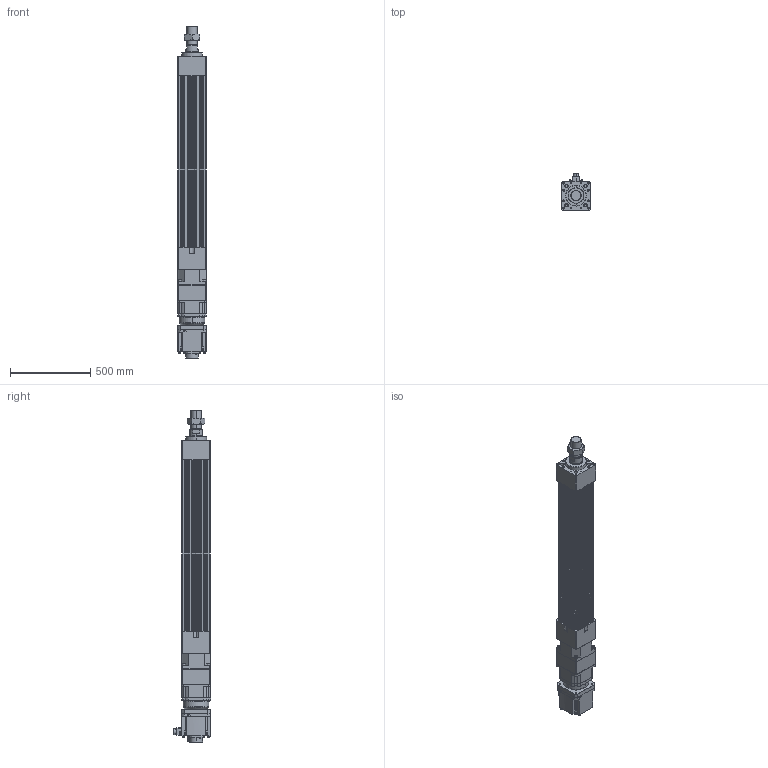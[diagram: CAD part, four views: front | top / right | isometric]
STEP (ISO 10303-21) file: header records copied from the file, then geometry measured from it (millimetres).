
FILE_DESCRIPTION (( 'STEP AP203' ), '1' );
FILE_NAME ('HES180HS-S750-W050G00-M.STEP', '2023-02-01T09:58:43', ( 'tms' ), ( '' ), 'SwSTEP 2.0', 'SolidWorks 2013', '' );
FILE_SCHEMA (( 'CONFIG_CONTROL_DESIGN' ));
Length unit declared in the file: millimetre
Products named in the file (9): P0403600401; HES180-S750-G180; AB180-003[HG-SR702B]; AB1801; M64X2.0P; P1301600001; HES180 ROD M ST750; HES180HS-S750-W050G00-M; HG-SR502
Assembly tree (8 placements, depth 3):
  HES180HS-S750-W050G00-M
    HES180-S750-G180
    HES180 ROD M ST750
    M64X2.0P
    AB180-003[HG-SR702B]
      AB1801
      P1301600001
      P0403600401
    HG-SR502
Bounding box: 180 x 230.85 x 2067 mm (x, y, z)
Volume: 30555432.6 mm3; surface area: 2952029.3 mm2
Topology: 4 solids, 23 shells, 1534 faces, 3945 edges, 2546 vertices
Faces by surface type: cylinder 693, plane 600, cone 174, bspline 63, torus 4
Entity records: 55246 total; most frequent: CARTESIAN_POINT 16431, DIRECTION 8177, ORIENTED_EDGE 7750, EDGE_CURVE 3899, AXIS2_PLACEMENT_3D 3072, VERTEX_POINT 2546, VECTOR 2033, LINE 2033
